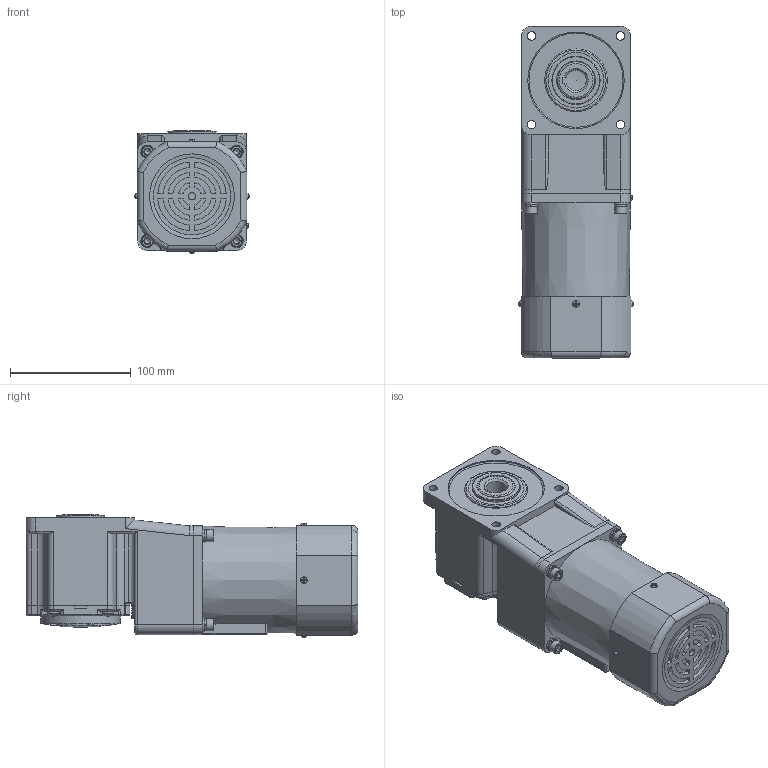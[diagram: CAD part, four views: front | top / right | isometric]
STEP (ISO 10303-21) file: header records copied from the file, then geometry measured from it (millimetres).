
FILE_DESCRIPTION(/* description */ (''),/* implementation_level */ '2;1');
FILE_NAME(/* name */ '90+中空直角-调速风叶-60W.stp',/* time_stamp */ '2022-09-27T11:17:10+08:00',/* author */ (''),/* organization */ (''),/* preprocessor_version */ 'ST-DEVELOPER v16.7',/* originating_system */ 'SIEMENS PLM Software NX 1899',/* authorisation */ '');
FILE_SCHEMA (('AP203_CONFIGURATION_CONTROLLED_3D_DESIGN_OF_MECHANICAL_PARTS_AND_ASSEMBLIES_MIM_LF { 1 0 10303 403 2 1 2}'));
Length unit declared in the file: millimetre
Products named in the file (1): yf1815905F60uh0y
Bounding box: 94.8 x 275 x 101.9 mm (x, y, z)
Volume: 1895348 mm3; surface area: 163703.8 mm2
Topology: 15 solids, 16 shells, 762 faces, 1800 edges, 1107 vertices
Faces by surface type: plane 396, cylinder 235, torus 63, cone 50, sphere 10, bspline 8
Full cylindrical faces by diameter (mm): 3.3 x2, 4.5 x2, 5 x4, 5.5 x4, 5.795 x4, 6 x1, 6.4 x4, 7 x9, 9.5 x4, 10 x4, 11 x4, 30 x2, 40 x1, 47 x1, 47.5 x1, 52 x1, 60 x1, 60.5 x1, 66 x1, 67 x1, 76 x1, 80 x1, 86 x2
Entity records: 23478 total; most frequent: CARTESIAN_POINT 5402, DIRECTION 3548, ORIENTED_EDGE 3246, EDGE_CURVE 1623, AXIS2_PLACEMENT_3D 1370, VERTEX_POINT 1055, EDGE_LOOP 944, LINE 808
